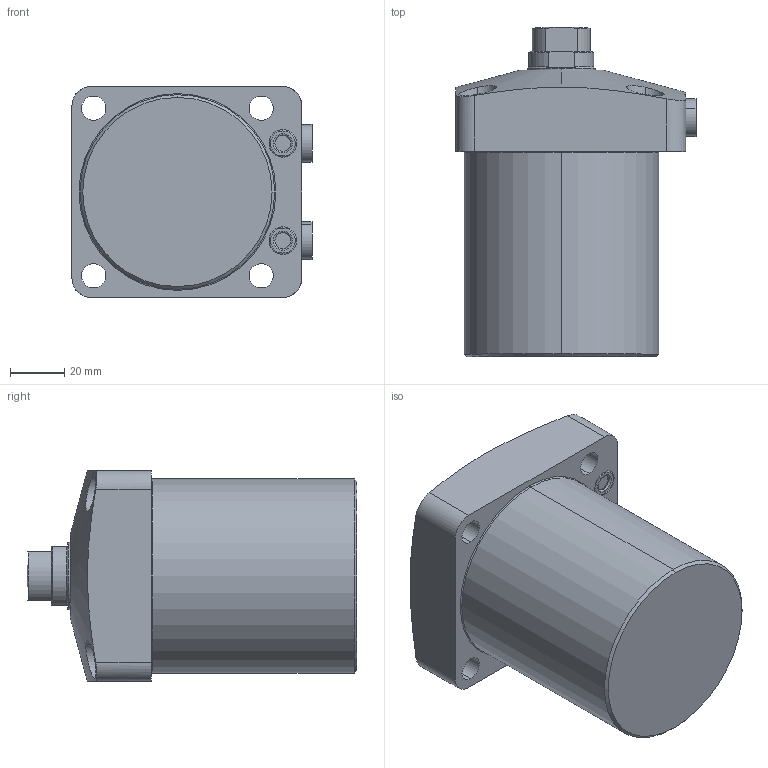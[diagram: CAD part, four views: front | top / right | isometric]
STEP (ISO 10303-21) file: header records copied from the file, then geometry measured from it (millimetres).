
FILE_DESCRIPTION(/* description */ (''),/* implementation_level */ '2;1');
FILE_NAME(/* name */ 'FSC25.stp',/* time_stamp */ '2022-11-16T13:39:29+08:00',/* author */ (''),/* organization */ (''),/* preprocessor_version */ 'ST-DEVELOPER v16.7',/* originating_system */ 'SIEMENS PLM Software NX 12.0',/* authorisation */ '');
FILE_SCHEMA (('AP203_CONFIGURATION_CONTROLLED_3D_DESIGN_OF_MECHANICAL_PARTS_AND_ASSEMBLIES_MIM_LF { 1 0 10303 403 2 1 2}'));
Length unit declared in the file: millimetre
Products named in the file (5): FSC25-03; FSC25-01; FSC25-02; FSC25-04; CSU25_step
Assembly tree (5 placements, depth 2):
  CSU25_step
    FSC25-04  x2
    FSC25-02
    FSC25-01
    FSC25-03
Bounding box: 88.8 x 122 x 78 mm (x, y, z)
Volume: 474170.9 mm3; surface area: 49685.7 mm2
Topology: 5 solids, 7 shells, 198 faces, 432 edges, 267 vertices
Faces by surface type: cylinder 82, plane 56, torus 30, cone 28, sphere 2
Entity records: 5637 total; most frequent: CARTESIAN_POINT 979, DIRECTION 948, ORIENTED_EDGE 780, AXIS2_PLACEMENT_3D 408, EDGE_CURVE 390, VERTEX_POINT 241, CIRCLE 224, EDGE_LOOP 209
